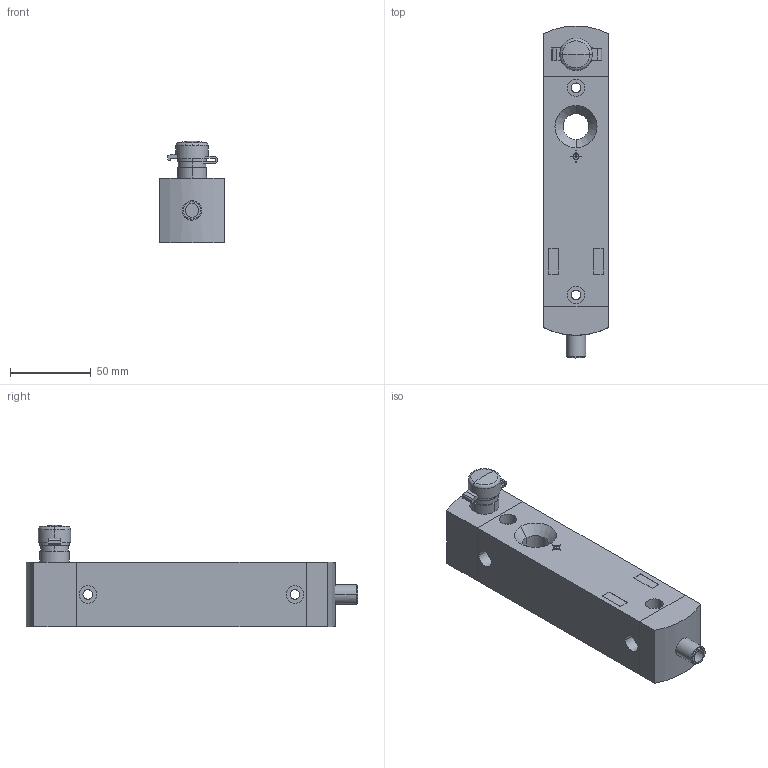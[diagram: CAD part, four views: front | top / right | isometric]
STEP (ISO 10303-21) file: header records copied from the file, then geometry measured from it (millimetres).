
FILE_DESCRIPTION (( 'STEP AP214' ), '1' );
FILE_NAME ('ZF_STEP_NS_xxSTxSxK.step', '2017-07-18T06:17:32', ( 'Pizzato Elettrica' ), ( 'Microsoft' ), 'SwSTEP 2.0', 'SolidWorks 2014', '' );
FILE_SCHEMA (( 'AUTOMOTIVE_DESIGN' ));
Length unit declared in the file: millimetre
Products named in the file (6): Pizzato_testa_NS_ST; Pizzato_tappo serratura_Montata; Pizzato_testa_NS_Sblocco serratura; Pizzato_connettore_NS_SMK; Pizzato_Custodia NS; ZF_STEP_NS_xxSTxSxK
Assembly tree (5 placements, depth 3):
  ZF_STEP_NS_xxSTxSxK
    Pizzato_Custodia NS
    Pizzato_connettore_NS_SMK
    Pizzato_testa_NS_ST
      Pizzato_testa_NS_Sblocco serratura
      Pizzato_tappo serratura_Montata
Bounding box: 40 x 205.2 x 62.8 mm (x, y, z)
Volume: 290935.1 mm3; surface area: 49208.7 mm2
Topology: 4 solids, 4 shells, 301 faces, 759 edges, 500 vertices
Faces by surface type: plane 175, cylinder 77, bspline 41, sphere 4, cone 2, torus 2
Entity records: 9533 total; most frequent: CARTESIAN_POINT 2248, ORIENTED_EDGE 1518, DIRECTION 1337, EDGE_CURVE 759, VERTEX_POINT 500, LINE 495, VECTOR 495, AXIS2_PLACEMENT_3D 421
